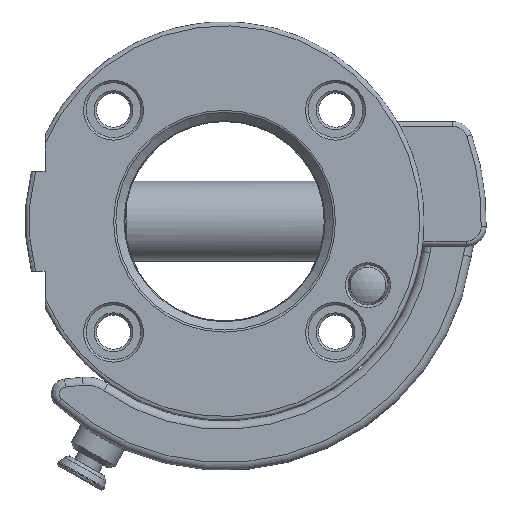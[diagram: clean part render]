
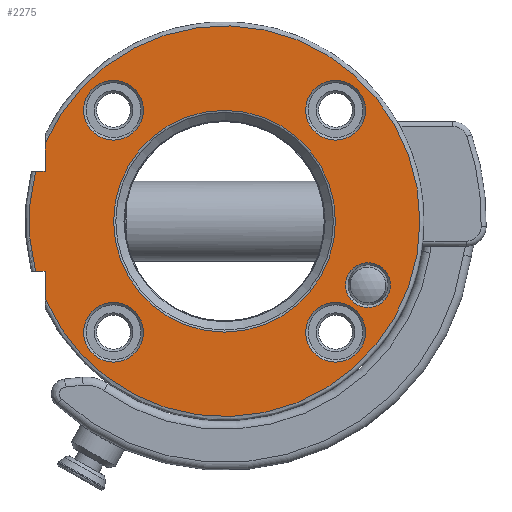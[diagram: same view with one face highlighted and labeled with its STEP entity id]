
A CAD part, front view. The second image highlights one B-rep face of the part: STEP entity #2275.
In plain terms, the highlighted planar face has unit normal (0, -1, 0).
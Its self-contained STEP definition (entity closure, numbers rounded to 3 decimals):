
#56=FACE_BOUND('',#612,.T.);
#57=FACE_BOUND('',#613,.T.);
#58=FACE_BOUND('',#614,.T.);
#59=FACE_BOUND('',#615,.T.);
#60=FACE_BOUND('',#616,.T.);
#61=FACE_BOUND('',#617,.T.);
#91=LINE('',#3842,#189);
#92=LINE('',#3845,#190);
#127=LINE('',#4428,#225);
#128=LINE('',#4432,#226);
#189=VECTOR('',#2796,1.903);
#190=VECTOR('',#2799,5.513);
#225=VECTOR('',#3150,5.513);
#226=VECTOR('',#3155,1.903);
#283=PLANE('',#2558);
#459=FACE_OUTER_BOUND('',#611,.T.);
#611=EDGE_LOOP('',(#1904,#1905,#1906,#1907,#1908,#1909));
#612=EDGE_LOOP('',(#1910));
#613=EDGE_LOOP('',(#1911));
#614=EDGE_LOOP('',(#1912));
#615=EDGE_LOOP('',(#1913,#1914));
#616=EDGE_LOOP('',(#1915));
#617=EDGE_LOOP('',(#1916));
#799=CIRCLE('',#2557,4.5);
#800=CIRCLE('',#2559,39.2);
#801=CIRCLE('',#2560,39.2);
#802=CIRCLE('',#2561,6.);
#803=CIRCLE('',#2562,6.);
#804=CIRCLE('',#2563,22.249);
#805=CIRCLE('',#2564,22.249);
#806=CIRCLE('',#2565,6.);
#807=CIRCLE('',#2566,6.);
#974=VERTEX_POINT('',#3814);
#978=VERTEX_POINT('',#3831);
#979=VERTEX_POINT('',#3844);
#1074=VERTEX_POINT('',#4422);
#1075=VERTEX_POINT('',#4426);
#1076=VERTEX_POINT('',#4427);
#1077=VERTEX_POINT('',#4430);
#1078=VERTEX_POINT('',#4433);
#1079=VERTEX_POINT('',#4435);
#1080=VERTEX_POINT('',#4437);
#1081=VERTEX_POINT('',#4438);
#1082=VERTEX_POINT('',#4441);
#1083=VERTEX_POINT('',#4443);
#1217=EDGE_CURVE('',#974,#978,#91,.T.);
#1218=EDGE_CURVE('',#979,#974,#92,.T.);
#1371=EDGE_CURVE('',#1074,#1074,#799,.T.);
#1372=EDGE_CURVE('',#1075,#1076,#127,.T.);
#1373=EDGE_CURVE('',#979,#1076,#800,.T.);
#1374=EDGE_CURVE('',#1077,#978,#801,.T.);
#1375=EDGE_CURVE('',#1077,#1075,#128,.T.);
#1376=EDGE_CURVE('',#1078,#1078,#802,.T.);
#1377=EDGE_CURVE('',#1079,#1079,#803,.T.);
#1378=EDGE_CURVE('',#1080,#1081,#804,.T.);
#1379=EDGE_CURVE('',#1081,#1080,#805,.T.);
#1380=EDGE_CURVE('',#1082,#1082,#806,.T.);
#1381=EDGE_CURVE('',#1083,#1083,#807,.T.);
#1904=ORIENTED_EDGE('',*,*,#1372,.T.);
#1905=ORIENTED_EDGE('',*,*,#1373,.F.);
#1906=ORIENTED_EDGE('',*,*,#1218,.T.);
#1907=ORIENTED_EDGE('',*,*,#1217,.T.);
#1908=ORIENTED_EDGE('',*,*,#1374,.F.);
#1909=ORIENTED_EDGE('',*,*,#1375,.T.);
#1910=ORIENTED_EDGE('',*,*,#1371,.F.);
#1911=ORIENTED_EDGE('',*,*,#1376,.F.);
#1912=ORIENTED_EDGE('',*,*,#1377,.F.);
#1913=ORIENTED_EDGE('',*,*,#1378,.F.);
#1914=ORIENTED_EDGE('',*,*,#1379,.F.);
#1915=ORIENTED_EDGE('',*,*,#1380,.F.);
#1916=ORIENTED_EDGE('',*,*,#1381,.F.);
#2275=ADVANCED_FACE('',(#459,#56,#57,#58,#59,#60,#61),#283,.T.);
#2557=AXIS2_PLACEMENT_3D('',#4424,#3146,#3147);
#2558=AXIS2_PLACEMENT_3D('',#4425,#3148,#3149);
#2559=AXIS2_PLACEMENT_3D('',#4429,#3151,#3152);
#2560=AXIS2_PLACEMENT_3D('',#4431,#3153,#3154);
#2561=AXIS2_PLACEMENT_3D('',#4434,#3156,#3157);
#2562=AXIS2_PLACEMENT_3D('',#4436,#3158,#3159);
#2563=AXIS2_PLACEMENT_3D('',#4439,#3160,#3161);
#2564=AXIS2_PLACEMENT_3D('',#4440,#3162,#3163);
#2565=AXIS2_PLACEMENT_3D('',#4442,#3164,#3165);
#2566=AXIS2_PLACEMENT_3D('',#4444,#3166,#3167);
#2796=DIRECTION('',(-1.,0.,0.));
#2799=DIRECTION('',(0.,0.,-1.));
#3146=DIRECTION('center_axis',(0.,-1.,0.));
#3147=DIRECTION('ref_axis',(-1.,0.,0.));
#3148=DIRECTION('center_axis',(0.,-1.,0.));
#3149=DIRECTION('ref_axis',(0.,0.,-1.));
#3150=DIRECTION('',(0.,0.,-1.));
#3151=DIRECTION('center_axis',(0.,1.,0.));
#3152=DIRECTION('ref_axis',(1.,0.,0.));
#3153=DIRECTION('center_axis',(0.,1.,0.));
#3154=DIRECTION('ref_axis',(1.,0.,0.));
#3155=DIRECTION('',(1.,0.,0.));
#3156=DIRECTION('center_axis',(0.,-1.,0.));
#3157=DIRECTION('ref_axis',(-1.,0.,0.));
#3158=DIRECTION('center_axis',(0.,-1.,0.));
#3159=DIRECTION('ref_axis',(-1.,0.,0.));
#3160=DIRECTION('center_axis',(0.,-1.,0.));
#3161=DIRECTION('ref_axis',(1.,0.,0.));
#3162=DIRECTION('center_axis',(0.,-1.,0.));
#3163=DIRECTION('ref_axis',(1.,0.,0.));
#3164=DIRECTION('center_axis',(0.,-1.,0.));
#3165=DIRECTION('ref_axis',(-1.,0.,0.));
#3166=DIRECTION('center_axis',(0.,-1.,0.));
#3167=DIRECTION('ref_axis',(-1.,0.,0.));
#3814=CARTESIAN_POINT('',(-36.,0.,10.));
#3831=CARTESIAN_POINT('',(-37.903,0.,10.));
#3842=CARTESIAN_POINT('',(-33.,0.,10.));
#3844=CARTESIAN_POINT('',(-36.,0.,15.513));
#3845=CARTESIAN_POINT('',(-36.,0.,8.718));
#4422=CARTESIAN_POINT('',(33.277,0.,-12.812));
#4424=CARTESIAN_POINT('Origin',(28.777,0.,-12.812));
#4425=CARTESIAN_POINT('Origin',(-30.,0.,0.));
#4426=CARTESIAN_POINT('',(-36.,0.,-10.));
#4427=CARTESIAN_POINT('',(-36.,0.,-15.513));
#4428=CARTESIAN_POINT('',(-36.,0.,-5.));
#4429=CARTESIAN_POINT('Origin',(0.,0.,
0.));
#4430=CARTESIAN_POINT('',(-37.903,0.,-10.));
#4431=CARTESIAN_POINT('Origin',(0.,0.,
0.));
#4432=CARTESIAN_POINT('',(-34.365,0.,-10.));
#4433=CARTESIAN_POINT('',(28.274,0.,-22.274));
#4434=CARTESIAN_POINT('Origin',(22.274,0.,-22.274));
#4435=CARTESIAN_POINT('',(-16.274,0.,22.274));
#4436=CARTESIAN_POINT('Origin',(-22.274,0.,
22.274));
#4437=CARTESIAN_POINT('',(-22.249,0.,0.));
#4438=CARTESIAN_POINT('',(0.,0.,22.249));
#4439=CARTESIAN_POINT('Origin',(0.,0.,
0.));
#4440=CARTESIAN_POINT('Origin',(0.,0.,
0.));
#4441=CARTESIAN_POINT('',(28.274,0.,22.274));
#4442=CARTESIAN_POINT('Origin',(22.274,0.,22.274));
#4443=CARTESIAN_POINT('',(-16.274,0.,-22.274));
#4444=CARTESIAN_POINT('Origin',(-22.274,0.,
-22.274));
